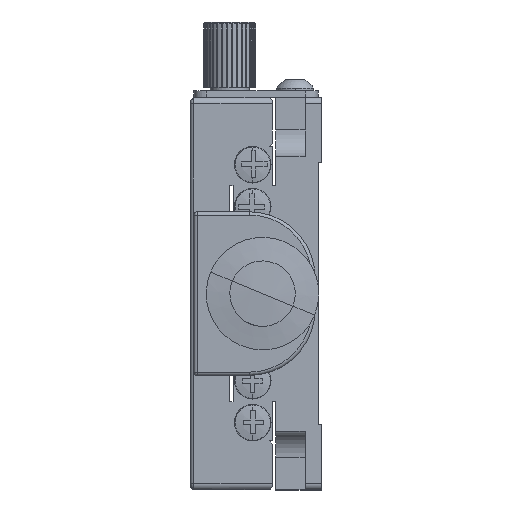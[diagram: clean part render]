
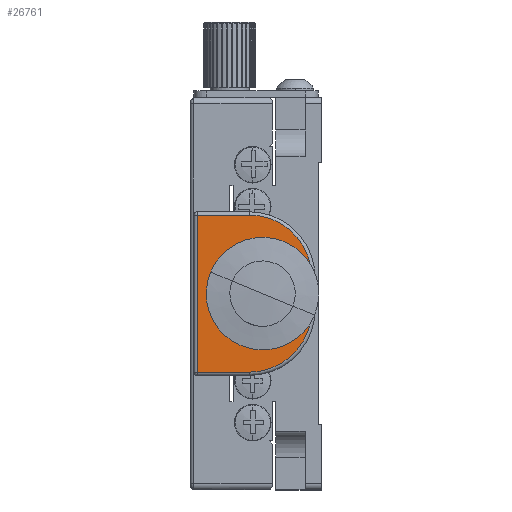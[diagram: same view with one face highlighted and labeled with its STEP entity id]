
A CAD part, left-side view. The second image highlights one B-rep face of the part: STEP entity #26761.
In plain terms, the highlighted planar face has unit normal (-1, 0, 0).
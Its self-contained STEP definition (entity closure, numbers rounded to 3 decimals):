
#456 = EDGE_LOOP ( 'NONE', ( #4128, #19692, #2545, #29392, #19624, #29368 ) ) ;
#1348 = CARTESIAN_POINT ( 'NONE',  ( -159.817, -486.677, 178.03 ) ) ;
#1388 = AXIS2_PLACEMENT_3D ( 'NONE', #28044, #4346, #14875 ) ;
#1663 = VECTOR ( 'NONE', #16875, 1000. ) ;
#2341 = CIRCLE ( 'NONE', #21639, 7. ) ;
#2545 = ORIENTED_EDGE ( 'NONE', *, *, #30441, .T. ) ;
#3792 = DIRECTION ( 'NONE',  ( 0., 0., 1. ) ) ;
#4128 = ORIENTED_EDGE ( 'NONE', *, *, #10177, .T. ) ;
#4346 = DIRECTION ( 'NONE',  ( 1., 0., 0. ) ) ;
#4459 = DIRECTION ( 'NONE',  ( 0., -1., 0. ) ) ;
#4466 = DIRECTION ( 'NONE',  ( 0., 0., 1. ) ) ;
#4543 = ORIENTED_EDGE ( 'NONE', *, *, #14588, .T. ) ;
#4761 = DIRECTION ( 'NONE',  ( 1., 0., 0. ) ) ;
#5084 = VECTOR ( 'NONE', #20619, 1000. ) ;
#5610 = CARTESIAN_POINT ( 'NONE',  ( -159.817, -486.677, 163.53 ) ) ;
#6341 = CARTESIAN_POINT ( 'NONE',  ( -159.817, -496.177, 178.03 ) ) ;
#6753 = DIRECTION ( 'NONE',  ( 0., 1., 0. ) ) ;
#6913 = VERTEX_POINT ( 'NONE', #8325 ) ;
#7056 = PLANE ( 'NONE',  #32564 ) ;
#8325 = CARTESIAN_POINT ( 'NONE',  ( -159.817, -495.146, 172.857 ) ) ;
#8430 = EDGE_CURVE ( 'NONE', #30168, #31936, #24654, .T. ) ;
#9291 = EDGE_CURVE ( 'NONE', #13429, #9474, #17601, .T. ) ;
#9474 = VERTEX_POINT ( 'NONE', #5610 ) ;
#9746 = AXIS2_PLACEMENT_3D ( 'NONE', #1348, #11848, #22405 ) ;
#10075 = CARTESIAN_POINT ( 'NONE',  ( -159.817, -478.677, 163.03 ) ) ;
#10177 = EDGE_CURVE ( 'NONE', #32185, #13429, #33775, .T. ) ;
#10530 = EDGE_LOOP ( 'NONE', ( #14703, #4543 ) ) ;
#11848 = DIRECTION ( 'NONE',  ( -1., 0., 0. ) ) ;
#12769 = EDGE_CURVE ( 'NONE', #6913, #23441, #2341, .T. ) ;
#12929 = AXIS2_PLACEMENT_3D ( 'NONE', #16889, #27469, #3792 ) ;
#13429 = VERTEX_POINT ( 'NONE', #19565 ) ;
#14588 = EDGE_CURVE ( 'NONE', #23441, #6913, #16216, .T. ) ;
#14703 = ORIENTED_EDGE ( 'NONE', *, *, #12769, .T. ) ;
#14875 = DIRECTION ( 'NONE',  ( 0., -0.924, -0.382 ) ) ;
#15298 = DIRECTION ( 'NONE',  ( 0., -0.924, -0.382 ) ) ;
#15906 = CARTESIAN_POINT ( 'NONE',  ( -159.817, -496.177, 173.03 ) ) ;
#16216 = CIRCLE ( 'NONE', #1388, 7. ) ;
#16875 = DIRECTION ( 'NONE',  ( 0., 0., 1. ) ) ;
#16889 = CARTESIAN_POINT ( 'NONE',  ( -159.817, -486.677, 173.03 ) ) ;
#17601 = LINE ( 'NONE', #28165, #22514 ) ;
#17609 = CARTESIAN_POINT ( 'NONE',  ( -159.817, -484.677, 163.03 ) ) ;
#18444 = EDGE_CURVE ( 'NONE', #29838, #30168, #30056, .T. ) ;
#19565 = CARTESIAN_POINT ( 'NONE',  ( -159.817, -478.677, 163.53 ) ) ;
#19624 = ORIENTED_EDGE ( 'NONE', *, *, #8430, .T. ) ;
#19692 = ORIENTED_EDGE ( 'NONE', *, *, #9291, .T. ) ;
#19900 = LINE ( 'NONE', #30461, #31186 ) ;
#20199 = FACE_OUTER_BOUND ( 'NONE', #456, .T. ) ;
#20619 = DIRECTION ( 'NONE',  ( 0., 0., -1. ) ) ;
#21372 = CARTESIAN_POINT ( 'NONE',  ( -159.817, -486.677, 187.53 ) ) ;
#21639 = AXIS2_PLACEMENT_3D ( 'NONE', #28476, #4761, #15298 ) ;
#22405 = DIRECTION ( 'NONE',  ( 0., 0., 1. ) ) ;
#22514 = VECTOR ( 'NONE', #4459, 1000. ) ;
#23441 = VERTEX_POINT ( 'NONE', #25571 ) ;
#24654 = CIRCLE ( 'NONE', #9746, 9.5 ) ;
#25571 = CARTESIAN_POINT ( 'NONE',  ( -159.817, -482.207, 178.203 ) ) ;
#26761 = ADVANCED_FACE ( 'NONE', ( #20199, #30756 ), #7056, .F. ) ;
#27469 = DIRECTION ( 'NONE',  ( -1., 0., 0. ) ) ;
#27872 = CIRCLE ( 'NONE', #12929, 9.5 ) ;
#28044 = CARTESIAN_POINT ( 'NONE',  ( -159.817, -488.677, 175.53 ) ) ;
#28165 = CARTESIAN_POINT ( 'NONE',  ( -159.817, -484.677, 163.53 ) ) ;
#28172 = DIRECTION ( 'NONE',  ( 1., 0., 0. ) ) ;
#28476 = CARTESIAN_POINT ( 'NONE',  ( -159.817, -488.677, 175.53 ) ) ;
#29368 = ORIENTED_EDGE ( 'NONE', *, *, #33719, .T. ) ;
#29392 = ORIENTED_EDGE ( 'NONE', *, *, #18444, .T. ) ;
#29838 = VERTEX_POINT ( 'NONE', #15906 ) ;
#30056 = LINE ( 'NONE', #6341, #1663 ) ;
#30168 = VERTEX_POINT ( 'NONE', #33902 ) ;
#30441 = EDGE_CURVE ( 'NONE', #9474, #29838, #27872, .T. ) ;
#30461 = CARTESIAN_POINT ( 'NONE',  ( -159.817, -484.677, 187.53 ) ) ;
#30756 = FACE_BOUND ( 'NONE', #10530, .T. ) ;
#30891 = CARTESIAN_POINT ( 'NONE',  ( -159.817, -478.677, 187.53 ) ) ;
#31186 = VECTOR ( 'NONE', #6753, 1000. ) ;
#31936 = VERTEX_POINT ( 'NONE', #21372 ) ;
#32185 = VERTEX_POINT ( 'NONE', #30891 ) ;
#32564 = AXIS2_PLACEMENT_3D ( 'NONE', #17609, #28172, #4466 ) ;
#33719 = EDGE_CURVE ( 'NONE', #31936, #32185, #19900, .T. ) ;
#33775 = LINE ( 'NONE', #10075, #5084 ) ;
#33902 = CARTESIAN_POINT ( 'NONE',  ( -159.817, -496.177, 178.03 ) ) ;
